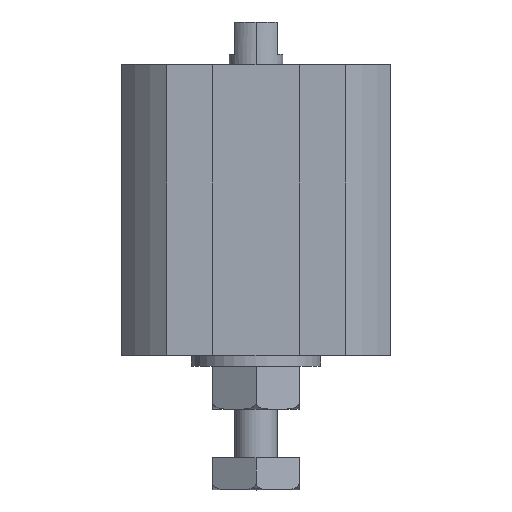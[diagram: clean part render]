
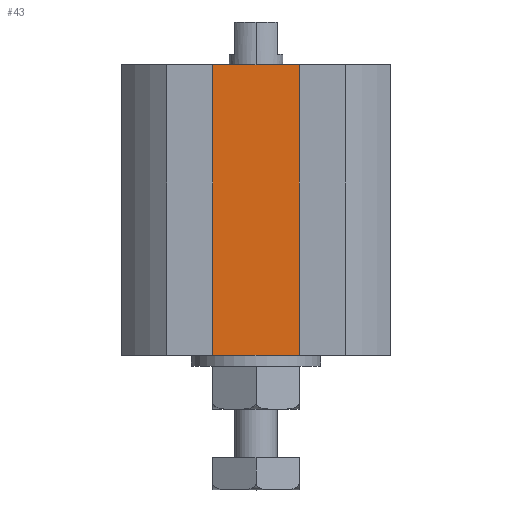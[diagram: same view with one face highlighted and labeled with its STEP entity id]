
A CAD part, top view. The second image highlights one B-rep face of the part: STEP entity #43.
In plain terms, the highlighted planar face has unit normal (0, 0, 1).
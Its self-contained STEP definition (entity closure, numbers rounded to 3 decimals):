
#43 = ADVANCED_FACE ( 'NONE', ( #1900 ), #3638, .T. ) ;
#142 = DIRECTION ( 'NONE',  ( 1., 0., 0. ) ) ;
#158 = EDGE_LOOP ( 'NONE', ( #228, #1417, #3634, #1954 ) ) ;
#228 = ORIENTED_EDGE ( 'NONE', *, *, #2543, .F. ) ;
#387 = VERTEX_POINT ( 'NONE', #2837 ) ;
#467 = LINE ( 'NONE', #495, #2277 ) ;
#495 = CARTESIAN_POINT ( 'NONE',  ( 0., -27., 7.8 ) ) ;
#536 = EDGE_CURVE ( 'NONE', #2843, #387, #737, .T. ) ;
#547 = VERTEX_POINT ( 'NONE', #3273 ) ;
#737 = LINE ( 'NONE', #1146, #3585 ) ;
#770 = DIRECTION ( 'NONE',  ( 1., 0., 0. ) ) ;
#1146 = CARTESIAN_POINT ( 'NONE',  ( 4., -27., 7.8 ) ) ;
#1150 = AXIS2_PLACEMENT_3D ( 'NONE', #1926, #1542, #142 ) ;
#1151 = CARTESIAN_POINT ( 'NONE',  ( -4., -27., 7.8 ) ) ;
#1209 = LINE ( 'NONE', #3599, #3579 ) ;
#1417 = ORIENTED_EDGE ( 'NONE', *, *, #2624, .F. ) ;
#1485 = DIRECTION ( 'NONE',  ( 0., 1., 0. ) ) ;
#1542 = DIRECTION ( 'NONE',  ( 0., 0., 1. ) ) ;
#1900 = FACE_OUTER_BOUND ( 'NONE', #158, .T. ) ;
#1926 = CARTESIAN_POINT ( 'NONE',  ( 0., -27., 7.8 ) ) ;
#1954 = ORIENTED_EDGE ( 'NONE', *, *, #536, .T. ) ;
#2027 = LINE ( 'NONE', #2990, #2614 ) ;
#2126 = DIRECTION ( 'NONE',  ( 1., 0., 0. ) ) ;
#2277 = VECTOR ( 'NONE', #770, 1000. ) ;
#2543 = EDGE_CURVE ( 'NONE', #547, #387, #2027, .T. ) ;
#2614 = VECTOR ( 'NONE', #2126, 1000. ) ;
#2624 = EDGE_CURVE ( 'NONE', #2824, #547, #1209, .T. ) ;
#2824 = VERTEX_POINT ( 'NONE', #1151 ) ;
#2837 = CARTESIAN_POINT ( 'NONE',  ( 4., 0., 7.8 ) ) ;
#2843 = VERTEX_POINT ( 'NONE', #3167 ) ;
#2990 = CARTESIAN_POINT ( 'NONE',  ( 0., 0., 7.8 ) ) ;
#3167 = CARTESIAN_POINT ( 'NONE',  ( 4., -27., 7.8 ) ) ;
#3273 = CARTESIAN_POINT ( 'NONE',  ( -4., 0., 7.8 ) ) ;
#3326 = DIRECTION ( 'NONE',  ( 0., 1., 0. ) ) ;
#3561 = EDGE_CURVE ( 'NONE', #2824, #2843, #467, .T. ) ;
#3579 = VECTOR ( 'NONE', #3326, 1000. ) ;
#3585 = VECTOR ( 'NONE', #1485, 1000. ) ;
#3599 = CARTESIAN_POINT ( 'NONE',  ( -4., -27., 7.8 ) ) ;
#3634 = ORIENTED_EDGE ( 'NONE', *, *, #3561, .T. ) ;
#3638 = PLANE ( 'NONE',  #1150 ) ;
